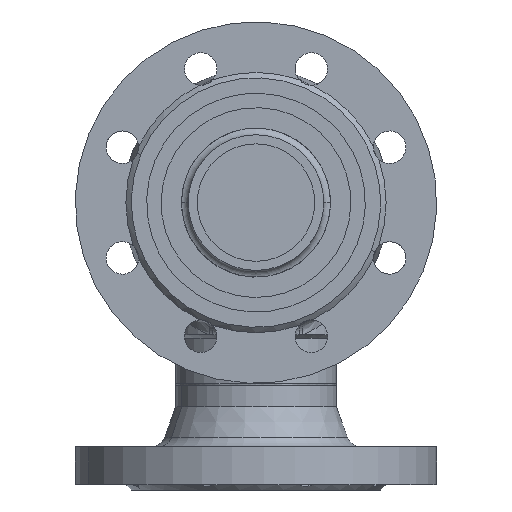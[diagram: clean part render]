
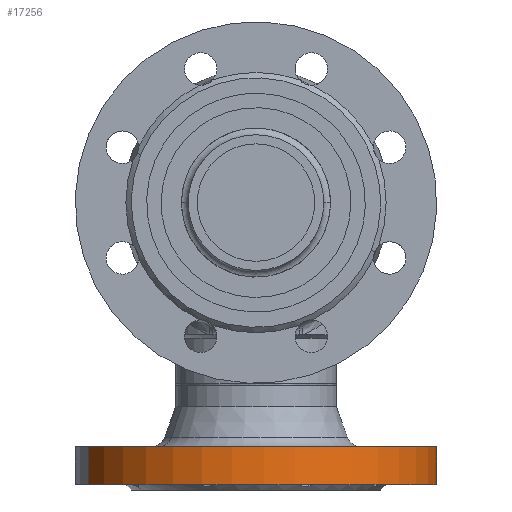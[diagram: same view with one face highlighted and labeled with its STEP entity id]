
A CAD part, front view. The second image highlights one B-rep face of the part: STEP entity #17256.
In plain terms, the highlighted cylindrical face has radius 100 mm (diameter 200 mm), a partial arc.
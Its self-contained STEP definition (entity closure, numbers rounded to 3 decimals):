
#16764 = VERTEX_POINT ( 'NONE', #8180 ) ;
#17008 = EDGE_LOOP ( 'NONE', ( #6044, #5530, #4647, #4130 ) ) ;
#17256 = ADVANCED_FACE ( 'NONE', ( #8585 ), #8586, .T. ) ;
#981 = CARTESIAN_POINT ( 'NONE',  ( -100., 24., 0. ) ) ;
#17638 = EDGE_CURVE ( 'NONE', #15657, #14386, #9019, .T. ) ;
#19312 = LINE ( 'NONE', #19313, #19316 ) ;
#19313 = CARTESIAN_POINT ( 'NONE',  ( -100., 75., 0. ) ) ;
#19316 = VECTOR ( 'NONE', #19317, 1000. ) ;
#19317 = DIRECTION ( 'NONE',  ( 0., 1., 0. ) ) ;
#4130 = ORIENTED_EDGE ( 'NONE', *, *, #17638, .F. ) ;
#4247 = CIRCLE ( 'NONE', #4248, 100. ) ;
#4248 = AXIS2_PLACEMENT_3D ( 'NONE', #4249, #4250, #4251 ) ;
#4249 = CARTESIAN_POINT ( 'NONE',  ( 0., 3., 0. ) ) ;
#4250 = DIRECTION ( 'NONE',  ( 0., 1., 0. ) ) ;
#4251 = DIRECTION ( 'NONE',  ( -1., 0., 0. ) ) ;
#4448 = CARTESIAN_POINT ( 'NONE',  ( 100., 24., 0. ) ) ;
#4598 = LINE ( 'NONE', #4599, #4600 ) ;
#4599 = CARTESIAN_POINT ( 'NONE',  ( 100., 75., 0. ) ) ;
#4600 = VECTOR ( 'NONE', #4601, 1000. ) ;
#4601 = DIRECTION ( 'NONE',  ( 0., 1., 0. ) ) ;
#4647 = ORIENTED_EDGE ( 'NONE', *, *, #13503, .T. ) ;
#5163 = EDGE_CURVE ( 'NONE', #16764, #6730, #4247, .T. ) ;
#5530 = ORIENTED_EDGE ( 'NONE', *, *, #5163, .T. ) ;
#6044 = ORIENTED_EDGE ( 'NONE', *, *, #15876, .F. ) ;
#6730 = VERTEX_POINT ( 'NONE', #8370 ) ;
#8180 = CARTESIAN_POINT ( 'NONE',  ( 100., 3., 0. ) ) ;
#8370 = CARTESIAN_POINT ( 'NONE',  ( -100., 3., 0. ) ) ;
#8585 = FACE_OUTER_BOUND ( 'NONE', #17008, .T. ) ;
#8586 = CYLINDRICAL_SURFACE ( 'NONE', #8587, 100. ) ;
#8587 = AXIS2_PLACEMENT_3D ( 'NONE', #8588, #8594, #8595 ) ;
#8588 = CARTESIAN_POINT ( 'NONE',  ( 0., 75., 0. ) ) ;
#8594 = DIRECTION ( 'NONE',  ( 0., 1., 0. ) ) ;
#8595 = DIRECTION ( 'NONE',  ( -1., 0., 0. ) ) ;
#9019 = CIRCLE ( 'NONE', #9020, 100. ) ;
#9020 = AXIS2_PLACEMENT_3D ( 'NONE', #9021, #9022, #9023 ) ;
#9021 = CARTESIAN_POINT ( 'NONE',  ( 0., 24., 0. ) ) ;
#9022 = DIRECTION ( 'NONE',  ( 0., 1., 0. ) ) ;
#9023 = DIRECTION ( 'NONE',  ( -1., 0., 0. ) ) ;
#13503 = EDGE_CURVE ( 'NONE', #6730, #14386, #19312, .T. ) ;
#14386 = VERTEX_POINT ( 'NONE', #981 ) ;
#15657 = VERTEX_POINT ( 'NONE', #4448 ) ;
#15876 = EDGE_CURVE ( 'NONE', #16764, #15657, #4598, .T. ) ;
